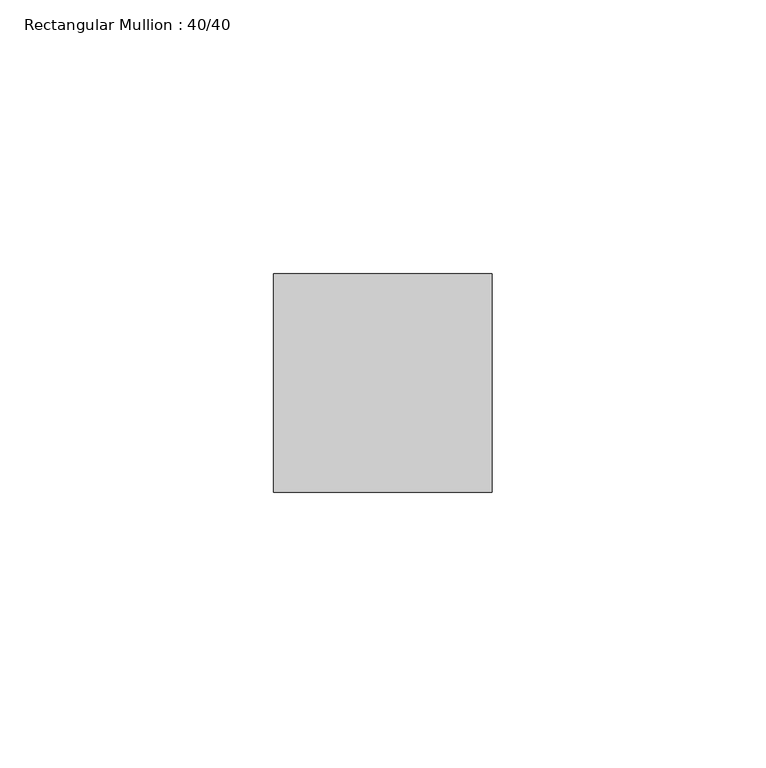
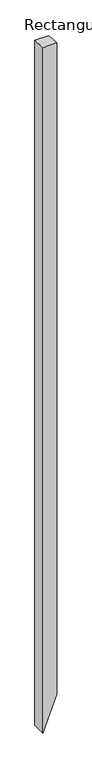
"""IFC4 building model written with IfcOpenShell, lengths in millimetres: member geometry, Rectangular Mullion : 40/40."""

from ifc_helpers import new_model, si_unit, origin, place, context, project, spatial, faceted_brep, source, transform, mapped, element, save


def rectangular_mullion_40_40_0157c378(model_context):
    return source(origin(), model_context, "Body", "Brep", [
        faceted_brep([(-20.0, 20.0, -1.3985362), (20.0, 20.0, -1.3985362), (20.0, 20.0, -1968.0624812), (-20.0, 20.0, -2071.1547908), (-20.0, -20.0, 1.3985362), (-20.0, -20.0, -2071.1547908), (20.0, -20.0, 1.3985362), (20.0, -20.0, -1968.0624812)], [[[0, 1, 2, 3]], [[4, 0, 3, 5]], [[6, 4, 5, 7]], [[1, 6, 7, 2]], [[1, 0, 4, 6]], [[2, 7, 5, 3]]]),
    ])


if __name__ == "__main__":
    model = new_model("IFC4")
    model_context = context("Model", 3, world=origin())
    ifc_project = project(units=[si_unit("LENGTHUNIT", "METRE", prefix="MILLI")], contexts=[model_context])
    site = spatial("IfcSite", under=ifc_project)
    building = spatial("IfcBuilding", under=site)
    placement = place(None, origin())
    rectangular_mullion_40_40_shape = rectangular_mullion_40_40_0157c378(model_context)
    element("IfcMember", 1, ObjectType="Rectangular Mullion : 40/40", at=placement, inside=building, context=model_context, shape_type="MappedRepresentation", body=[
        mapped(rectangular_mullion_40_40_shape, transform((0.0, 0.0, 0.0), x_axis=(1.0, 0.0, 0.0), y_axis=(0.0, 1.0, 0.0), z_axis=(0.0, 0.0, 1.0))),
    ])
    save(model, "model.ifc")
